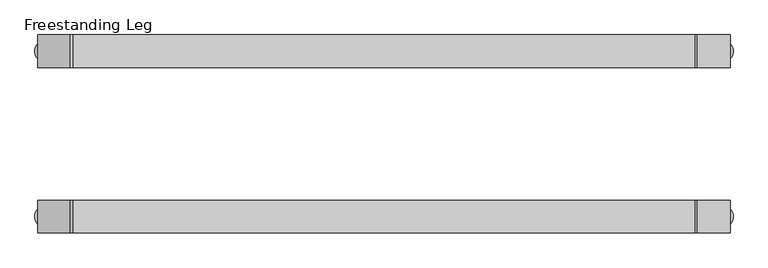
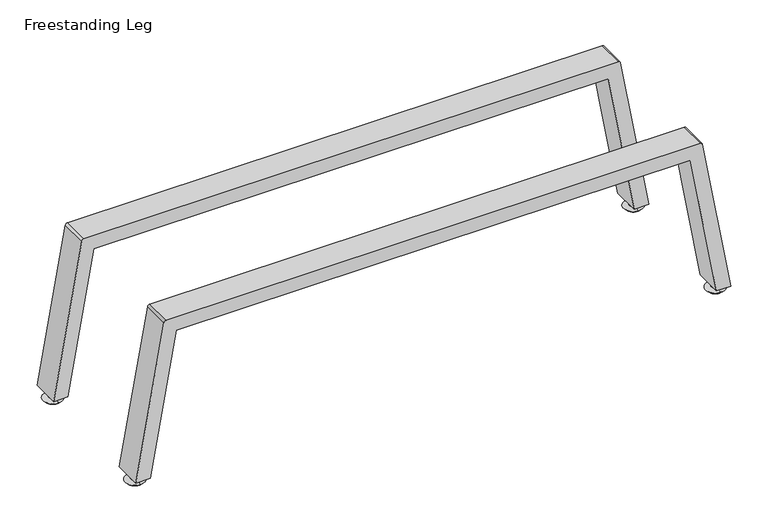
"""IFC4 building model written with IfcOpenShell, lengths in millimetres: furniture geometry, Steelcase Turnstone - Bivi - Storage - Trunk Support : Freestanding Leg."""

import ifcopenshell
import ifcopenshell.guid

model = None  # the IFC model being written
_history = None  # IfcOwnerHistory: only IFC2X3 demands one
_inside = {}  # id of a spatial element -> (the spatial element, [elements in it])
_under = {}  # id of a project, library or spatial element -> (it, [spatial elements below it])
_declared = {}  # id of a project -> (the project, [libraries it declares])
_typed = {}  # id of a type object -> (the type object, [elements of that type])
_made_of = {}  # id of a material, layer set ... -> (it, [elements and type objects made of it])


def new_model(schema):
    """Start an empty IFC model of exactly this schema.

    Asked for "IFC4X3", IfcOpenShell would pick the latest addendum, in which some entities
    have other attributes; the version numbers below select the first issue.
    IFC2X3 requires an IfcOwnerHistory on every rooted entity: one is made here for all.
    """
    global model, _history
    if schema == "IFC4X3":
        model = ifcopenshell.file(schema_version=(4, 3, 0, 0))
    else:
        model = ifcopenshell.file(schema=schema)
    _inside.clear()
    _under.clear()
    _declared.clear()
    _typed.clear()
    _made_of.clear()
    _history = None
    if model.schema == "IFC2X3":
        org = make("IfcOrganization", Name="unknown")
        user = make(
            "IfcPersonAndOrganization",
            ThePerson=make("IfcPerson", FamilyName="unknown"),
            TheOrganization=org,
        )
        app = make(
            "IfcApplication",
            ApplicationDeveloper=org,
            Version="unknown",
            ApplicationFullName="unknown",
            ApplicationIdentifier="unknown",
        )
        _history = make(
            "IfcOwnerHistory",
            OwningUser=user,
            OwningApplication=app,
            ChangeAction="ADDED",
            CreationDate=0,
        )
    return model


def make(cls, **values):
    """One entity of the class cls with the attributes given. An attribute that is None is left unset."""
    return model.create_entity(
        cls, **{name: value for name, value in values.items() if value is not None}
    )


def rooted(cls, **values):
    """An entity with a GlobalId (a new one), such as an element, a storey or a relation."""
    return make(cls, GlobalId=ifcopenshell.guid.new(), OwnerHistory=_history, **values)


def si_unit(unit_type, name, prefix=None):
    """IfcSIUnit, for example si_unit("LENGTHUNIT", "METRE", prefix="MILLI")."""
    return make("IfcSIUnit", UnitType=unit_type, Prefix=prefix, Name=name)


def assignment(units):
    """IfcUnitAssignment: the units of a project."""
    return None if units is None else make("IfcUnitAssignment", Units=units)


def point(xyz):
    """IfcCartesianPoint."""
    return None if xyz is None else make("IfcCartesianPoint", Coordinates=xyz)


def direction(xyz):
    """IfcDirection."""
    return None if xyz is None else make("IfcDirection", DirectionRatios=xyz)


def frame(location, z_axis=None, x_axis=None):
    """IfcAxis2Placement3D, a coordinate frame: its origin and axes. An axis left out is left unset."""
    return make(
        "IfcAxis2Placement3D",
        Location=point(location),
        Axis=direction(z_axis),
        RefDirection=direction(x_axis),
    )


def frame_2d(location, x_axis=None):
    """IfcAxis2Placement2D, a coordinate frame in the plane: its origin and x axis."""
    return make(
        "IfcAxis2Placement2D", Location=point(location), RefDirection=direction(x_axis)
    )


def origin():
    """The frame at (0, 0, 0) with its axes left unset."""
    return frame((0.0, 0.0, 0.0))


def place(relative_to, where):
    """IfcLocalPlacement: puts the frame where relative to a parent placement (None: the world)."""
    return make(
        "IfcLocalPlacement", PlacementRelTo=relative_to, RelativePlacement=where
    )


def context(
    kind, dimensions, precision=None, world=None, true_north=None, identifier=None
):
    """IfcGeometricRepresentationContext, for example the 3D "Model" context."""
    return make(
        "IfcGeometricRepresentationContext",
        ContextIdentifier=identifier,
        ContextType=kind,
        CoordinateSpaceDimension=dimensions,
        Precision=precision,
        WorldCoordinateSystem=world,
        TrueNorth=true_north,
    )


def project(units=None, contexts=None):
    """IfcProject with its units and contexts."""
    return rooted(
        "IfcProject",
        Name="project",
        RepresentationContexts=contexts,
        UnitsInContext=assignment(units),
    )


def spatial(cls, under=None, at=None, **own):
    """A site, building, storey or space (cls), placed at a placement, below another one or the project."""
    s = rooted(cls, ObjectPlacement=at, **own)
    if under is not None:
        _under.setdefault(under.id(), (under, []))[1].append(s)
    return s


def polyline(points):
    """IfcPolyline through the points."""
    return make("IfcPolyline", Points=[point(p) for p in points])


def circle_curve(where, radius):
    """IfcCircle in the frame where."""
    return make("IfcCircle", Position=where, Radius=radius)


def trimmed(basis, trim1, trim2, sense, master):
    """IfcTrimmedCurve: the piece of a basis curve between two trims."""
    return make(
        "IfcTrimmedCurve",
        BasisCurve=basis,
        Trim1=trim1,
        Trim2=trim2,
        SenseAgreement=sense,
        MasterRepresentation=master,
    )


def segment(curve, same_sense, transition):
    """IfcCompositeCurveSegment."""
    return make(
        "IfcCompositeCurveSegment",
        Transition=transition,
        SameSense=same_sense,
        ParentCurve=curve,
    )


def composite_curve(segments, self_intersect=None):
    """IfcCompositeCurve: segments joined end to end."""
    return make("IfcCompositeCurve", Segments=segments, SelfIntersect=self_intersect)


def outline(outer, holes=None, kind="AREA"):
    """IfcArbitraryClosedProfileDef: a profile drawn as a closed curve; with holes, ...WithVoids."""
    if holes is None:
        return make("IfcArbitraryClosedProfileDef", ProfileType=kind, OuterCurve=outer)
    return make(
        "IfcArbitraryProfileDefWithVoids",
        ProfileType=kind,
        OuterCurve=outer,
        InnerCurves=holes,
    )


def extrude(swept, where, along, depth):
    """IfcExtrudedAreaSolid: the profile swept, set in the frame where, extruded along a direction by depth."""
    return make(
        "IfcExtrudedAreaSolid",
        SweptArea=swept,
        Position=where,
        ExtrudedDirection=direction(along),
        Depth=depth,
    )


def shape(context_of_items, identifier, shape_type, items):
    """IfcShapeRepresentation: the items that make up one representation, for example the "Body"."""
    return make(
        "IfcShapeRepresentation",
        ContextOfItems=context_of_items,
        RepresentationIdentifier=identifier,
        RepresentationType=shape_type,
        Items=items,
    )


def source(mapping_origin, context_of_items, identifier, shape_type, items):
    """IfcRepresentationMap: a shape defined once, which mapped items show again and again."""
    return make(
        "IfcRepresentationMap",
        MappingOrigin=mapping_origin,
        MappedRepresentation=shape(context_of_items, identifier, shape_type, items),
    )


def transform(
    local_origin,
    x_axis=None,
    y_axis=None,
    z_axis=None,
    scale=None,
    scale2=None,
    scale3=None,
    uniform=True,
):
    """IfcCartesianTransformationOperator3D, or its non-uniform kind. x_axis, y_axis, z_axis: its Axis1, 2, 3."""
    if uniform:
        return make(
            "IfcCartesianTransformationOperator3D",
            Axis1=direction(x_axis),
            Axis2=direction(y_axis),
            LocalOrigin=point(local_origin),
            Scale=scale,
            Axis3=direction(z_axis),
        )
    return make(
        "IfcCartesianTransformationOperator3DnonUniform",
        Axis1=direction(x_axis),
        Axis2=direction(y_axis),
        LocalOrigin=point(local_origin),
        Scale=scale,
        Axis3=direction(z_axis),
        Scale2=scale2,
        Scale3=scale3,
    )


def mapped(mapping_source, mapping_target):
    """IfcMappedItem: shows the shape of a source again, moved by a transform."""
    return make(
        "IfcMappedItem", MappingSource=mapping_source, MappingTarget=mapping_target
    )


def made_of(thing, what):
    """Note that an element or type object is made of a material, layer set ...; save() writes the relation."""
    if what is not None:
        _made_of.setdefault(what.id(), (what, []))[1].append(thing)
    return thing


def element(
    cls,
    number,
    at=None,
    inside=None,
    cuts=None,
    type_object=None,
    material=None,
    context=None,
    identifier="Body",
    shape_type=None,
    held_by="IfcProductDefinitionShape",
    body=None,
    shapes=None,
    **own,
):
    """One element of the class cls, such as IfcWall. Its Tag is "e" and its number.

    at: its placement. inside: the storey or other place that contains it. cuts: it is an
    opening in that element (IfcRelVoidsElement). A single representation is given by context,
    identifier, shape_type and body (its items); several are given by shapes. held_by: the class
    of the entity that holds the representations. save() writes the other relations.
    """
    e = rooted(cls, Tag="e%d" % number, ObjectPlacement=at, **own)
    if body is not None:
        shapes = [shape(context, identifier, shape_type, body)]
    if shapes is not None:
        e.Representation = make(held_by, Representations=shapes)
    if inside is not None:
        _inside.setdefault(inside.id(), (inside, []))[1].append(e)
    if cuts is not None:
        rooted(
            "IfcRelVoidsElement", RelatingBuildingElement=cuts, RelatedOpeningElement=e
        )
    if type_object is not None:
        _typed.setdefault(type_object.id(), (type_object, []))[1].append(e)
    return made_of(e, material)


def aggregate(whole, parts):
    """IfcRelAggregates: a whole, such as a stair, and the parts it consists of."""
    return rooted("IfcRelAggregates", RelatingObject=whole, RelatedObjects=parts)


def save(model, path):
    """Write the relations noted so far, then the file.

    IfcRelAggregates (storeys below a building ...), IfcRelContainedInSpatialStructure (elements
    in a storey), IfcRelDefinesByType, IfcRelAssociatesMaterial and IfcRelDeclares: one each for
    every whole, place, type object, material and project.
    """
    for whole, parts in _under.values():
        aggregate(whole, parts)
    for where, things in _inside.values():
        rooted(
            "IfcRelContainedInSpatialStructure",
            RelatedElements=things,
            RelatingStructure=where,
        )
    for kind, things in _typed.values():
        rooted("IfcRelDefinesByType", RelatedObjects=things, RelatingType=kind)
    for what, things in _made_of.values():
        rooted("IfcRelAssociatesMaterial", RelatedObjects=things, RelatingMaterial=what)
    for by, libraries in _declared.values():
        rooted("IfcRelDeclares", RelatingContext=by, RelatedDefinitions=libraries)
    model.write(path)


def plane_surface(at):
    """IfcPlane: the flat surface through the origin of the frame at, square to its z axis."""
    return make("IfcPlane", Position=at)


def cylinder_surface(at, radius):
    """IfcCylindricalSurface: all points at the distance radius from the z axis of the frame at."""
    return make("IfcCylindricalSurface", Position=at, Radius=radius)


def revolved_surface(curve, axis_point, axis_direction):
    """IfcSurfaceOfRevolution: the curve turned about the line through axis_point along axis_direction."""
    return make(
        "IfcSurfaceOfRevolution",
        SweptCurve=make("IfcArbitraryOpenProfileDef", ProfileType="CURVE", Curve=curve),
        AxisPosition=make("IfcAxis1Placement", Location=point(axis_point), Axis=direction(axis_direction)),
    )


def advanced_brep(points, edges, surfaces, faces):
    """IfcAdvancedBrep: a solid bounded by faces that lie on surfaces and meet in shared edges.

    An edge is (start, end): straight between two places in points (the first is 0);
    or (start, end, curve); or (start, end, curve, False) where it runs against its curve.
    A face is (place in surfaces, loops), or (place, loops, False) where it looks against
    its surface's normal. A loop lists edges by number (the first is 1), with a minus sign
    where the edge is run from its end to its start. The first loop is the outer one.
    """
    corners = [point(p) for p in points]
    vertices = [make("IfcVertexPoint", VertexGeometry=c) for c in corners]
    made = []
    for start, end, *more in edges:
        made.append(
            make(
                "IfcEdgeCurve",
                EdgeStart=vertices[start],
                EdgeEnd=vertices[end],
                EdgeGeometry=more[0] if more else make("IfcPolyline", Points=[corners[start], corners[end]]),
                SameSense=more[1] if len(more) > 1 else True,
            )
        )
    hull = []
    for where, loops, *sense in faces:
        bounds = []
        for j, loop in enumerate(loops):
            ring = [make("IfcOrientedEdge", EdgeElement=made[abs(k) - 1], Orientation=k > 0) for k in loop]
            bounds.append(
                make(
                    "IfcFaceOuterBound" if j == 0 else "IfcFaceBound",
                    Bound=make("IfcEdgeLoop", EdgeList=ring),
                    Orientation=True,
                )
            )
        hull.append(make("IfcAdvancedFace", Bounds=bounds, FaceSurface=surfaces[where], SameSense=sense[0] if sense else True))
    return make("IfcAdvancedBrep", Outer=make("IfcClosedShell", CfsFaces=hull))


def freestanding_leg_a306e1b8(model_context):
    return source(origin(), model_context, "Body", "SolidModel", [
        advanced_brep(
        [(1285.2876775, -308.496793, 13.9702766), (1285.2876775, -298.8171513, 13.9702766), (1285.2876775, -298.8171513, 44.450212), (1285.2876775, -308.496793, 44.450212), (1285.2876775, -311.695435, 13.9702766), (1285.2876775, -295.6185093, 13.9702766), (1285.2876775, -311.695435, 10.160273), (1285.2876775, -295.6185093, 10.160273), (1285.2876775, -309.5403333, 10.160273), (1285.2876775, -297.7736109, 10.160273), (1285.2876775, -310.970968, 6.2296367), (1285.2876775, -296.3429763, 6.2296367), (1285.2876775, -321.2295548, 3.4808567), (1285.2876775, -286.0843895, 3.4808567), (1285.2876775, -317.7486981, 0.0), (1285.2876775, -289.5652461, 0.0), (1285.2876775, -303.6569721, 0.0), (1285.2876775, -303.6569721, 44.450212)],
        [
            (0, 1, circle_curve(frame((1285.2876775, -303.6569721, 13.9702766), z_axis=(0.0, 0.0, 1.0), x_axis=(0.0, 1.0, 0.0)), 4.8398209)),
            (1, 2),
            (2, 3, circle_curve(frame((1285.2876775, -303.6569721, 44.450212), z_axis=(0.0, 0.0, -1.0), x_axis=(0.0, 1.0, 0.0)), 4.8398209)),
            (3, 0),
            (1, 0, circle_curve(frame((1285.2876775, -303.6569721, 13.9702766), z_axis=(0.0, 0.0, 1.0), x_axis=(0.0, 1.0, 0.0)), 4.8398209)),
            (3, 2, circle_curve(frame((1285.2876775, -303.6569721, 44.450212), z_axis=(0.0, 0.0, -1.0), x_axis=(0.0, 1.0, 0.0)), 4.8398209)),
            (4, 5, circle_curve(frame((1285.2876775, -303.6569721, 13.9702766), z_axis=(0.0, 0.0, 1.0), x_axis=(0.0, 1.0, 0.0)), 8.0384628)),
            (5, 1),
            (0, 4),
            (5, 4, circle_curve(frame((1285.2876775, -303.6569721, 13.9702766), z_axis=(0.0, 0.0, 1.0), x_axis=(0.0, 1.0, 0.0)), 8.0384628)),
            (6, 7, circle_curve(frame((1285.2876775, -303.6569721, 10.160273), z_axis=(0.0, 0.0, 1.0), x_axis=(0.0, 1.0, 0.0)), 8.0384628)),
            (7, 5),
            (4, 6),
            (7, 6, circle_curve(frame((1285.2876775, -303.6569721, 10.160273), z_axis=(0.0, 0.0, 1.0), x_axis=(0.0, 1.0, 0.0)), 8.0384628)),
            (8, 9, circle_curve(frame((1285.2876775, -303.6569721, 10.160273), z_axis=(0.0, 0.0, 1.0), x_axis=(0.0, 1.0, 0.0)), 5.8833612)),
            (9, 7),
            (6, 8),
            (9, 8, circle_curve(frame((1285.2876775, -303.6569721, 10.160273), z_axis=(0.0, 0.0, 1.0), x_axis=(0.0, 1.0, 0.0)), 5.8833612)),
            (10, 11, circle_curve(frame((1285.2876775, -303.6569721, 6.2296367), z_axis=(0.0, 0.0, 1.0), x_axis=(0.0, 1.0, 0.0)), 7.3139958)),
            (11, 9),
            (8, 10),
            (11, 10, circle_curve(frame((1285.2876775, -303.6569721, 6.2296367), z_axis=(0.0, 0.0, 1.0), x_axis=(0.0, 1.0, 0.0)), 7.3139958)),
            (12, 13, circle_curve(frame((1285.2876775, -303.6569721, 3.4808567), z_axis=(0.0, 0.0, 1.0), x_axis=(0.0, 1.0, 0.0)), 17.5725827)),
            (13, 11),
            (10, 12),
            (13, 12, circle_curve(frame((1285.2876775, -303.6569721, 3.4808567), z_axis=(0.0, 0.0, 1.0), x_axis=(0.0, 1.0, 0.0)), 17.5725827)),
            (14, 15, circle_curve(frame((1285.2876775, -303.6569721, 0.0), z_axis=(0.0, 0.0, 1.0), x_axis=(0.0, 1.0, 0.0)), 14.091726)),
            (15, 13),
            (12, 14),
            (15, 14, circle_curve(frame((1285.2876775, -303.6569721, 0.0), z_axis=(0.0, 0.0, 1.0), x_axis=(0.0, 1.0, 0.0)), 14.091726)),
            (16, 15),
            (14, 16),
            (2, 17),
            (17, 3),
        ],
        [
            cylinder_surface(frame((1285.2876775, -303.6569721, 44.450212), z_axis=(0.0, 0.0, -1.0), x_axis=(0.0, 1.0, 0.0)), 4.8398209),
            plane_surface(frame((1285.2876775, -303.6569721, 13.9702766), z_axis=(0.0, 0.0, 1.0), x_axis=(0.0, 1.0, 0.0))),
            cylinder_surface(frame((1285.2876775, -303.6569721, 44.450212), z_axis=(0.0, 0.0, -1.0), x_axis=(0.0, 1.0, 0.0)), 8.0384628),
            plane_surface(frame((1285.2876775, -303.6569721, 10.160273), z_axis=(0.0, 0.0, -1.0), x_axis=(0.0, 1.0, 0.0))),
            revolved_surface(polyline([(1285.2876775, -297.7736109, 10.160273), (1285.2876775, -296.3429763, 6.2296367)]), (1285.2876775, -303.6569721, 44.450212), (0.0, 0.0, -1.0)),
            revolved_surface(polyline([(1285.2876775, -296.3429763, 6.2296367), (1285.2876775, -286.0843895, 3.4808567)]), (1285.2876775, -303.6569721, 44.450212), (0.0, 0.0, -1.0)),
            revolved_surface(polyline([(1285.2876775, -286.0843895, 3.4808567), (1285.2876775, -289.5652461, 0.0)]), (1285.2876775, -303.6569721, 44.450212), (0.0, 0.0, -1.0)),
            plane_surface(frame((1285.2876775, -303.6569721, 0.0), z_axis=(0.0, 0.0, -1.0), x_axis=(0.0, 1.0, 0.0))),
            plane_surface(frame((1285.2876775, -303.6569721, 44.450212), z_axis=(0.0, 0.0, 1.0), x_axis=(0.0, 1.0, 0.0))),
        ],
        [
            (0, [[1, 2, 3, 4]]),
            (0, [[5, -4, 6, -2]]),
            (1, [[7, 8, -1, 9]]),
            (1, [[10, -9, -5, -8]]),
            (2, [[11, 12, -7, 13]]),
            (2, [[14, -13, -10, -12]]),
            (3, [[15, 16, -11, 17]]),
            (3, [[18, -17, -14, -16]]),
            (4, [[19, 20, -15, 21]]),
            (4, [[22, -21, -18, -20]]),
            (5, [[23, 24, -19, 25]]),
            (5, [[26, -25, -22, -24]]),
            (6, [[27, 28, -23, 29]]),
            (6, [[30, -29, -26, -28]]),
            (7, [[31, -27, 32]]),
            (7, [[-32, -30, -31]]),
            (8, [[-3, 33, 34]]),
            (8, [[-6, -34, -33]]),
        ],
    ),
        advanced_brep(
        [(238.7123225, -308.496793, 44.450212), (238.7123225, -298.8171513, 44.450212), (238.7123225, -298.8171513, 13.9702766), (238.7123225, -308.496793, 13.9702766), (238.7123225, -295.6185093, 13.9702766), (238.7123225, -311.695435, 13.9702766), (238.7123225, -295.6185093, 10.160273), (238.7123225, -311.695435, 10.160273), (238.7123225, -297.7736109, 10.160273), (238.7123225, -309.5403333, 10.160273), (238.7123225, -296.3429763, 6.2296367), (238.7123225, -310.970968, 6.2296367), (238.7123225, -286.0843895, 3.4808567), (238.7123225, -321.2295548, 3.4808567), (238.7123225, -289.5652461, 0.0), (238.7123225, -317.7486981, 0.0), (238.7123225, -303.6569721, 0.0), (238.7123225, -303.6569721, 44.450212)],
        [
            (0, 1, circle_curve(frame((238.7123225, -303.6569721, 44.450212), z_axis=(0.0, 0.0, -1.0), x_axis=(0.0, 1.0, 0.0)), 4.8398209)),
            (1, 2),
            (2, 3, circle_curve(frame((238.7123225, -303.6569721, 13.9702766), z_axis=(0.0, 0.0, 1.0), x_axis=(0.0, 1.0, 0.0)), 4.8398209)),
            (3, 0),
            (1, 0, circle_curve(frame((238.7123225, -303.6569721, 44.450212), z_axis=(0.0, 0.0, -1.0), x_axis=(0.0, 1.0, 0.0)), 4.8398209)),
            (3, 2, circle_curve(frame((238.7123225, -303.6569721, 13.9702766), z_axis=(0.0, 0.0, 1.0), x_axis=(0.0, 1.0, 0.0)), 4.8398209)),
            (2, 4),
            (4, 5, circle_curve(frame((238.7123225, -303.6569721, 13.9702766), z_axis=(0.0, 0.0, 1.0), x_axis=(0.0, 1.0, 0.0)), 8.0384628)),
            (5, 3),
            (5, 4, circle_curve(frame((238.7123225, -303.6569721, 13.9702766), z_axis=(0.0, 0.0, 1.0), x_axis=(0.0, 1.0, 0.0)), 8.0384628)),
            (4, 6),
            (6, 7, circle_curve(frame((238.7123225, -303.6569721, 10.160273), z_axis=(0.0, 0.0, 1.0), x_axis=(0.0, 1.0, 0.0)), 8.0384628)),
            (7, 5),
            (7, 6, circle_curve(frame((238.7123225, -303.6569721, 10.160273), z_axis=(0.0, 0.0, 1.0), x_axis=(0.0, 1.0, 0.0)), 8.0384628)),
            (6, 8),
            (8, 9, circle_curve(frame((238.7123225, -303.6569721, 10.160273), z_axis=(0.0, 0.0, 1.0), x_axis=(0.0, 1.0, 0.0)), 5.8833612)),
            (9, 7),
            (9, 8, circle_curve(frame((238.7123225, -303.6569721, 10.160273), z_axis=(0.0, 0.0, 1.0), x_axis=(0.0, 1.0, 0.0)), 5.8833612)),
            (8, 10),
            (10, 11, circle_curve(frame((238.7123225, -303.6569721, 6.2296367), z_axis=(0.0, 0.0, 1.0), x_axis=(0.0, 1.0, 0.0)), 7.3139958)),
            (11, 9),
            (11, 10, circle_curve(frame((238.7123225, -303.6569721, 6.2296367), z_axis=(0.0, 0.0, 1.0), x_axis=(0.0, 1.0, 0.0)), 7.3139958)),
            (10, 12),
            (12, 13, circle_curve(frame((238.7123225, -303.6569721, 3.4808567), z_axis=(0.0, 0.0, 1.0), x_axis=(0.0, 1.0, 0.0)), 17.5725827)),
            (13, 11),
            (13, 12, circle_curve(frame((238.7123225, -303.6569721, 3.4808567), z_axis=(0.0, 0.0, 1.0), x_axis=(0.0, 1.0, 0.0)), 17.5725827)),
            (12, 14),
            (14, 15, circle_curve(frame((238.7123225, -303.6569721, 0.0), z_axis=(0.0, 0.0, 1.0), x_axis=(0.0, 1.0, 0.0)), 14.091726)),
            (15, 13),
            (15, 14, circle_curve(frame((238.7123225, -303.6569721, 0.0), z_axis=(0.0, 0.0, 1.0), x_axis=(0.0, 1.0, 0.0)), 14.091726)),
            (14, 16),
            (16, 15),
            (17, 1),
            (0, 17),
        ],
        [
            cylinder_surface(frame((238.7123225, -303.6569721, 44.450212), z_axis=(0.0, 0.0, 1.0), x_axis=(0.0, 1.0, 0.0)), 4.8398209),
            plane_surface(frame((238.7123225, -303.6569721, 13.9702766), z_axis=(0.0, 0.0, 1.0), x_axis=(0.0, 1.0, 0.0))),
            cylinder_surface(frame((238.7123225, -303.6569721, 44.450212), z_axis=(0.0, 0.0, 1.0), x_axis=(0.0, 1.0, 0.0)), 8.0384628),
            plane_surface(frame((238.7123225, -303.6569721, 10.160273), z_axis=(0.0, 0.0, -1.0), x_axis=(0.0, 1.0, 0.0))),
            revolved_surface(polyline([(238.7123225, -296.3429763, 6.2296367), (238.7123225, -297.7736109, 10.160273)]), (238.7123225, -303.6569721, 44.450212), (0.0, 0.0, 1.0)),
            revolved_surface(polyline([(238.7123225, -286.0843895, 3.4808567), (238.7123225, -296.3429763, 6.2296367)]), (238.7123225, -303.6569721, 44.450212), (0.0, 0.0, 1.0)),
            revolved_surface(polyline([(238.7123225, -289.5652461, 0.0), (238.7123225, -286.0843895, 3.4808567)]), (238.7123225, -303.6569721, 44.450212), (0.0, 0.0, 1.0)),
            plane_surface(frame((238.7123225, -303.6569721, 0.0), z_axis=(0.0, 0.0, -1.0), x_axis=(0.0, 1.0, 0.0))),
            plane_surface(frame((238.7123225, -303.6569721, 44.450212), z_axis=(0.0, 0.0, 1.0), x_axis=(0.0, 1.0, 0.0))),
        ],
        [
            (0, [[1, 2, 3, 4]]),
            (0, [[5, -4, 6, -2]]),
            (1, [[-3, 7, 8, 9]]),
            (1, [[-6, -9, 10, -7]]),
            (2, [[-8, 11, 12, 13]]),
            (2, [[-10, -13, 14, -11]]),
            (3, [[-12, 15, 16, 17]]),
            (3, [[-14, -17, 18, -15]]),
            (4, [[-16, 19, 20, 21]]),
            (4, [[-18, -21, 22, -19]]),
            (5, [[-20, 23, 24, 25]]),
            (5, [[-22, -25, 26, -23]]),
            (6, [[-24, 27, 28, 29]]),
            (6, [[-26, -29, 30, -27]]),
            (7, [[-28, 31, 32]]),
            (7, [[-30, -32, -31]]),
            (8, [[33, -1, 34]]),
            (8, [[-34, -5, -33]]),
        ],
    ),
        extrude(outline(composite_curve([segment(polyline([(15.5772139, 225.6195271), (15.5772139, 251.4123225), (281.1342207, 298.2371877), (281.1342207, 1225.7628123), (15.5772139, 1272.5876775), (15.5772139, 1298.3826752), (303.7745528, 1247.5657086)]), True, "CONTINUOUS"), segment(trimmed(circle_curve(frame_2d((303.1946459, 1244.2768933)), 3.3395506), [point((303.7745528, 1247.5657086))], [point((306.5341965, 1244.2768933))], False, "CARTESIAN"), True, "CONTINUOUS"), segment(polyline([(306.5341965, 1244.2768933), (306.5341965, 280.2432065)]), True, "CONTINUOUS"), segment(trimmed(circle_curve(frame_2d((302.5774397, 280.2432065)), 3.9567567), [point((306.5341965, 280.2432065))], [point((303.2645233, 276.3465618))], False, "CARTESIAN"), True, "CONTINUOUS"), segment(polyline([(303.2645233, 276.3465618), (15.5772139, 225.6195271)]), True, "CONTINUOUS")], self_intersect=False)), frame((0.0, -329.0571659, 0.0), z_axis=(0.0, 1.0, 0.0), x_axis=(0.0, 0.0, 1.0)), (0.0, 0.0, 1.0), 50.8003876),
        advanced_brep(
        [(1285.2876775, -42.2772419, 44.450212), (1285.2876775, -51.9568836, 44.450212), (1285.2876775, -51.9568836, 13.9702766), (1285.2876775, -42.2772419, 13.9702766), (1285.2876775, -55.1555256, 13.9702766), (1285.2876775, -39.0785999, 13.9702766), (1285.2876775, -55.1555256, 10.160273), (1285.2876775, -39.0785999, 10.160273), (1285.2876775, -53.000424, 10.160273), (1285.2876775, -41.2337015, 10.160273), (1285.2876775, -54.4310586, 6.2296367), (1285.2876775, -39.8030669, 6.2296367), (1285.2876775, -64.6896454, 3.4808567), (1285.2876775, -29.5444801, 3.4808567), (1285.2876775, -61.2087888, 0.0), (1285.2876775, -33.0253368, 0.0), (1285.2876775, -47.1170628, 0.0), (1285.2876775, -47.1170628, 44.450212)],
        [
            (0, 1, circle_curve(frame((1285.2876775, -47.1170628, 44.450212), z_axis=(0.0, 0.0, -1.0), x_axis=(0.0, -1.0, 0.0)), 4.8398209)),
            (1, 2),
            (2, 3, circle_curve(frame((1285.2876775, -47.1170628, 13.9702766), z_axis=(0.0, 0.0, 1.0), x_axis=(0.0, -1.0, 0.0)), 4.8398209)),
            (3, 0),
            (1, 0, circle_curve(frame((1285.2876775, -47.1170628, 44.450212), z_axis=(0.0, 0.0, -1.0), x_axis=(0.0, -1.0, 0.0)), 4.8398209)),
            (3, 2, circle_curve(frame((1285.2876775, -47.1170628, 13.9702766), z_axis=(0.0, 0.0, 1.0), x_axis=(0.0, -1.0, 0.0)), 4.8398209)),
            (2, 4),
            (4, 5, circle_curve(frame((1285.2876775, -47.1170628, 13.9702766), z_axis=(0.0, 0.0, 1.0), x_axis=(0.0, -1.0, 0.0)), 8.0384628)),
            (5, 3),
            (5, 4, circle_curve(frame((1285.2876775, -47.1170628, 13.9702766), z_axis=(0.0, 0.0, 1.0), x_axis=(0.0, -1.0, 0.0)), 8.0384628)),
            (4, 6),
            (6, 7, circle_curve(frame((1285.2876775, -47.1170628, 10.160273), z_axis=(0.0, 0.0, 1.0), x_axis=(0.0, -1.0, 0.0)), 8.0384628)),
            (7, 5),
            (7, 6, circle_curve(frame((1285.2876775, -47.1170628, 10.160273), z_axis=(0.0, 0.0, 1.0), x_axis=(0.0, -1.0, 0.0)), 8.0384628)),
            (6, 8),
            (8, 9, circle_curve(frame((1285.2876775, -47.1170628, 10.160273), z_axis=(0.0, 0.0, 1.0), x_axis=(0.0, -1.0, 0.0)), 5.8833612)),
            (9, 7),
            (9, 8, circle_curve(frame((1285.2876775, -47.1170628, 10.160273), z_axis=(0.0, 0.0, 1.0), x_axis=(0.0, -1.0, 0.0)), 5.8833612)),
            (8, 10),
            (10, 11, circle_curve(frame((1285.2876775, -47.1170628, 6.2296367), z_axis=(0.0, 0.0, 1.0), x_axis=(0.0, -1.0, 0.0)), 7.3139958)),
            (11, 9),
            (11, 10, circle_curve(frame((1285.2876775, -47.1170628, 6.2296367), z_axis=(0.0, 0.0, 1.0), x_axis=(0.0, -1.0, 0.0)), 7.3139958)),
            (10, 12),
            (12, 13, circle_curve(frame((1285.2876775, -47.1170628, 3.4808567), z_axis=(0.0, 0.0, 1.0), x_axis=(0.0, -1.0, 0.0)), 17.5725827)),
            (13, 11),
            (13, 12, circle_curve(frame((1285.2876775, -47.1170628, 3.4808567), z_axis=(0.0, 0.0, 1.0), x_axis=(0.0, -1.0, 0.0)), 17.5725827)),
            (12, 14),
            (14, 15, circle_curve(frame((1285.2876775, -47.1170628, 0.0), z_axis=(0.0, 0.0, 1.0), x_axis=(0.0, -1.0, 0.0)), 14.091726)),
            (15, 13),
            (15, 14, circle_curve(frame((1285.2876775, -47.1170628, 0.0), z_axis=(0.0, 0.0, 1.0), x_axis=(0.0, -1.0, 0.0)), 14.091726)),
            (14, 16),
            (16, 15),
            (17, 1),
            (0, 17),
        ],
        [
            cylinder_surface(frame((1285.2876775, -47.1170628, 44.450212), z_axis=(0.0, 0.0, 1.0), x_axis=(0.0, -1.0, 0.0)), 4.8398209),
            plane_surface(frame((1285.2876775, -47.1170628, 13.9702766), z_axis=(0.0, 0.0, 1.0), x_axis=(0.0, -1.0, 0.0))),
            cylinder_surface(frame((1285.2876775, -47.1170628, 44.450212), z_axis=(0.0, 0.0, 1.0), x_axis=(0.0, -1.0, 0.0)), 8.0384628),
            plane_surface(frame((1285.2876775, -47.1170628, 10.160273), z_axis=(0.0, 0.0, -1.0), x_axis=(0.0, -1.0, 0.0))),
            revolved_surface(polyline([(1285.2876775, -54.4310586, 6.2296367), (1285.2876775, -53.000424, 10.160273)]), (1285.2876775, -47.1170628, 44.450212), (0.0, 0.0, 1.0)),
            revolved_surface(polyline([(1285.2876775, -64.6896454, 3.4808567), (1285.2876775, -54.4310586, 6.2296367)]), (1285.2876775, -47.1170628, 44.450212), (0.0, 0.0, 1.0)),
            revolved_surface(polyline([(1285.2876775, -61.2087888, 0.0), (1285.2876775, -64.6896454, 3.4808567)]), (1285.2876775, -47.1170628, 44.450212), (0.0, 0.0, 1.0)),
            plane_surface(frame((1285.2876775, -47.1170628, 0.0), z_axis=(0.0, 0.0, -1.0), x_axis=(0.0, -1.0, 0.0))),
            plane_surface(frame((1285.2876775, -47.1170628, 44.450212), z_axis=(0.0, 0.0, 1.0), x_axis=(0.0, -1.0, 0.0))),
        ],
        [
            (0, [[1, 2, 3, 4]]),
            (0, [[5, -4, 6, -2]]),
            (1, [[-3, 7, 8, 9]]),
            (1, [[-6, -9, 10, -7]]),
            (2, [[-8, 11, 12, 13]]),
            (2, [[-10, -13, 14, -11]]),
            (3, [[-12, 15, 16, 17]]),
            (3, [[-14, -17, 18, -15]]),
            (4, [[-16, 19, 20, 21]]),
            (4, [[-18, -21, 22, -19]]),
            (5, [[-20, 23, 24, 25]]),
            (5, [[-22, -25, 26, -23]]),
            (6, [[-24, 27, 28, 29]]),
            (6, [[-26, -29, 30, -27]]),
            (7, [[-28, 31, 32]]),
            (7, [[-30, -32, -31]]),
            (8, [[33, -1, 34]]),
            (8, [[-34, -5, -33]]),
        ],
    ),
        advanced_brep(
        [(238.7123225, -42.2772419, 13.9702766), (238.7123225, -51.9568836, 13.9702766), (238.7123225, -51.9568836, 44.450212), (238.7123225, -42.2772419, 44.450212), (238.7123225, -39.0785999, 13.9702766), (238.7123225, -55.1555256, 13.9702766), (238.7123225, -39.0785999, 10.160273), (238.7123225, -55.1555256, 10.160273), (238.7123225, -41.2337015, 10.160273), (238.7123225, -53.000424, 10.160273), (238.7123225, -39.8030669, 6.2296367), (238.7123225, -54.4310586, 6.2296367), (238.7123225, -29.5444801, 3.4808567), (238.7123225, -64.6896454, 3.4808567), (238.7123225, -33.0253368, 0.0), (238.7123225, -61.2087888, 0.0), (238.7123225, -47.1170628, 0.0), (238.7123225, -47.1170628, 44.450212)],
        [
            (0, 1, circle_curve(frame((238.7123225, -47.1170628, 13.9702766), z_axis=(0.0, 0.0, 1.0), x_axis=(0.0, -1.0, 0.0)), 4.8398209)),
            (1, 2),
            (2, 3, circle_curve(frame((238.7123225, -47.1170628, 44.450212), z_axis=(0.0, 0.0, -1.0), x_axis=(0.0, -1.0, 0.0)), 4.8398209)),
            (3, 0),
            (1, 0, circle_curve(frame((238.7123225, -47.1170628, 13.9702766), z_axis=(0.0, 0.0, 1.0), x_axis=(0.0, -1.0, 0.0)), 4.8398209)),
            (3, 2, circle_curve(frame((238.7123225, -47.1170628, 44.450212), z_axis=(0.0, 0.0, -1.0), x_axis=(0.0, -1.0, 0.0)), 4.8398209)),
            (4, 5, circle_curve(frame((238.7123225, -47.1170628, 13.9702766), z_axis=(0.0, 0.0, 1.0), x_axis=(0.0, -1.0, 0.0)), 8.0384628)),
            (5, 1),
            (0, 4),
            (5, 4, circle_curve(frame((238.7123225, -47.1170628, 13.9702766), z_axis=(0.0, 0.0, 1.0), x_axis=(0.0, -1.0, 0.0)), 8.0384628)),
            (6, 7, circle_curve(frame((238.7123225, -47.1170628, 10.160273), z_axis=(0.0, 0.0, 1.0), x_axis=(0.0, -1.0, 0.0)), 8.0384628)),
            (7, 5),
            (4, 6),
            (7, 6, circle_curve(frame((238.7123225, -47.1170628, 10.160273), z_axis=(0.0, 0.0, 1.0), x_axis=(0.0, -1.0, 0.0)), 8.0384628)),
            (8, 9, circle_curve(frame((238.7123225, -47.1170628, 10.160273), z_axis=(0.0, 0.0, 1.0), x_axis=(0.0, -1.0, 0.0)), 5.8833612)),
            (9, 7),
            (6, 8),
            (9, 8, circle_curve(frame((238.7123225, -47.1170628, 10.160273), z_axis=(0.0, 0.0, 1.0), x_axis=(0.0, -1.0, 0.0)), 5.8833612)),
            (10, 11, circle_curve(frame((238.7123225, -47.1170628, 6.2296367), z_axis=(0.0, 0.0, 1.0), x_axis=(0.0, -1.0, 0.0)), 7.3139958)),
            (11, 9),
            (8, 10),
            (11, 10, circle_curve(frame((238.7123225, -47.1170628, 6.2296367), z_axis=(0.0, 0.0, 1.0), x_axis=(0.0, -1.0, 0.0)), 7.3139958)),
            (12, 13, circle_curve(frame((238.7123225, -47.1170628, 3.4808567), z_axis=(0.0, 0.0, 1.0), x_axis=(0.0, -1.0, 0.0)), 17.5725827)),
            (13, 11),
            (10, 12),
            (13, 12, circle_curve(frame((238.7123225, -47.1170628, 3.4808567), z_axis=(0.0, 0.0, 1.0), x_axis=(0.0, -1.0, 0.0)), 17.5725827)),
            (14, 15, circle_curve(frame((238.7123225, -47.1170628, 0.0), z_axis=(0.0, 0.0, 1.0), x_axis=(0.0, -1.0, 0.0)), 14.091726)),
            (15, 13),
            (12, 14),
            (15, 14, circle_curve(frame((238.7123225, -47.1170628, 0.0), z_axis=(0.0, 0.0, 1.0), x_axis=(0.0, -1.0, 0.0)), 14.091726)),
            (16, 15),
            (14, 16),
            (2, 17),
            (17, 3),
        ],
        [
            cylinder_surface(frame((238.7123225, -47.1170628, 44.450212), z_axis=(0.0, 0.0, -1.0), x_axis=(0.0, -1.0, 0.0)), 4.8398209),
            plane_surface(frame((238.7123225, -47.1170628, 13.9702766), z_axis=(0.0, 0.0, 1.0), x_axis=(0.0, -1.0, 0.0))),
            cylinder_surface(frame((238.7123225, -47.1170628, 44.450212), z_axis=(0.0, 0.0, -1.0), x_axis=(0.0, -1.0, 0.0)), 8.0384628),
            plane_surface(frame((238.7123225, -47.1170628, 10.160273), z_axis=(0.0, 0.0, -1.0), x_axis=(0.0, -1.0, 0.0))),
            revolved_surface(polyline([(238.7123225, -53.000424, 10.160273), (238.7123225, -54.4310586, 6.2296367)]), (238.7123225, -47.1170628, 44.450212), (0.0, 0.0, -1.0)),
            revolved_surface(polyline([(238.7123225, -54.4310586, 6.2296367), (238.7123225, -64.6896454, 3.4808567)]), (238.7123225, -47.1170628, 44.450212), (0.0, 0.0, -1.0)),
            revolved_surface(polyline([(238.7123225, -64.6896454, 3.4808567), (238.7123225, -61.2087888, 0.0)]), (238.7123225, -47.1170628, 44.450212), (0.0, 0.0, -1.0)),
            plane_surface(frame((238.7123225, -47.1170628, 0.0), z_axis=(0.0, 0.0, -1.0), x_axis=(0.0, -1.0, 0.0))),
            plane_surface(frame((238.7123225, -47.1170628, 44.450212), z_axis=(0.0, 0.0, 1.0), x_axis=(0.0, -1.0, 0.0))),
        ],
        [
            (0, [[1, 2, 3, 4]]),
            (0, [[5, -4, 6, -2]]),
            (1, [[7, 8, -1, 9]]),
            (1, [[10, -9, -5, -8]]),
            (2, [[11, 12, -7, 13]]),
            (2, [[14, -13, -10, -12]]),
            (3, [[15, 16, -11, 17]]),
            (3, [[18, -17, -14, -16]]),
            (4, [[19, 20, -15, 21]]),
            (4, [[22, -21, -18, -20]]),
            (5, [[23, 24, -19, 25]]),
            (5, [[26, -25, -22, -24]]),
            (6, [[27, 28, -23, 29]]),
            (6, [[30, -29, -26, -28]]),
            (7, [[31, -27, 32]]),
            (7, [[-32, -30, -31]]),
            (8, [[-3, 33, 34]]),
            (8, [[-6, -34, -33]]),
        ],
    ),
        extrude(outline(composite_curve([segment(polyline([(15.5772139, 225.6195271), (15.5772139, 251.4123225), (281.1342207, 298.2371877), (281.1342207, 1225.7628123), (15.5772139, 1272.5876775), (15.5772139, 1298.3826752), (303.7745528, 1247.5657086)]), True, "CONTINUOUS"), segment(trimmed(circle_curve(frame_2d((303.1946459, 1244.2768933)), 3.3395506), [point((303.7745528, 1247.5657086))], [point((306.5341965, 1244.2768933))], False, "CARTESIAN"), True, "CONTINUOUS"), segment(polyline([(306.5341965, 1244.2768933), (306.5341965, 280.2432065)]), True, "CONTINUOUS"), segment(trimmed(circle_curve(frame_2d((302.5774397, 280.2432065)), 3.9567567), [point((306.5341965, 280.2432065))], [point((303.2645233, 276.3465618))], False, "CARTESIAN"), True, "CONTINUOUS"), segment(polyline([(303.2645233, 276.3465618), (15.5772139, 225.6195271)]), True, "CONTINUOUS")], self_intersect=False)), frame((0.0, -72.5172565, 0.0), z_axis=(0.0, 1.0, 0.0), x_axis=(0.0, 0.0, 1.0)), (0.0, 0.0, 1.0), 50.8003876),
    ])


if __name__ == "__main__":
    model = new_model("IFC4")
    model_context = context("Model", 3, world=origin())
    ifc_project = project(units=[si_unit("LENGTHUNIT", "METRE", prefix="MILLI")], contexts=[model_context])
    site = spatial("IfcSite", under=ifc_project)
    building = spatial("IfcBuilding", under=site)
    placement = place(None, origin())
    freestanding_leg_shape = freestanding_leg_a306e1b8(model_context)
    element("IfcFurniture", 1, ObjectType="Steelcase Turnstone - Bivi - Storage - Trunk Support : Freestanding Leg", at=placement, inside=building, context=model_context, shape_type="MappedRepresentation", body=[
        mapped(freestanding_leg_shape, transform((0.0, 0.0, 0.0), x_axis=(1.0, 0.0, 0.0), y_axis=(0.0, 1.0, 0.0), z_axis=(0.0, 0.0, 1.0))),
    ])
    save(model, "model.ifc")
